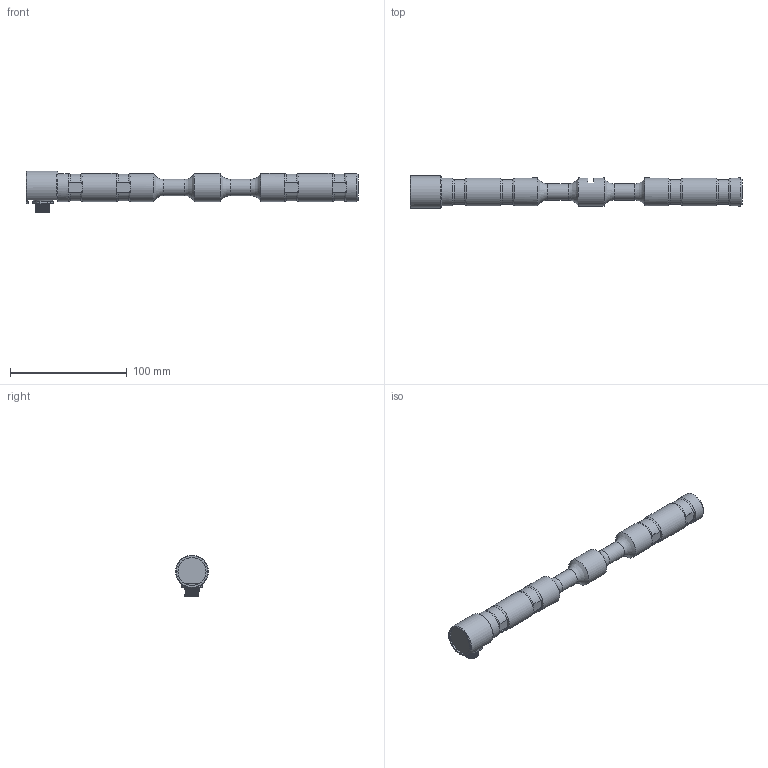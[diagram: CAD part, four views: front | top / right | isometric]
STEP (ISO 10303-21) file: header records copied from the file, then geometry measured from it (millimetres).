
FILE_DESCRIPTION(/* description */ ('Alibre Inc.'),/* implementation_level */ '2;1');
FILE_NAME(/* name */ 'export0',/* time_stamp */ '2017-02-15T13:26:52+01:00',/* author */ (''),/* organization */ (''),/* preprocessor_version */ 'ST-DEVELOPER v14',/* originating_system */ 'Alibre',/* authorisation */ '');
FILE_SCHEMA (('CONFIG_CONTROL_DESIGN'));
Length unit declared in the file: centimetre
Products named in the file (6): ID_1; ID_2; ID_3; ID_4
Bounding box: 284.4 x 28 x 35.7 mm (x, y, z)
Volume: 98537.8 mm3; surface area: 31886 mm2
Topology: 8 solids, 9 shells, 230 faces, 532 edges, 325 vertices
Faces by surface type: plane 92, cylinder 86, bspline 23, torus 21, cone 8
Full cylindrical faces by diameter (mm): 0.5 x8, 8 x3, 10 x3, 11.5 x1, 13 x1, 14 x2, 14.376 x1, 24 x8, 28 x1
Entity records: 18633 total; most frequent: CARTESIAN_POINT 13759, ORIENTED_EDGE 964, DIRECTION 662, EDGE_CURVE 477, VERTEX_POINT 312, AXIS2_PLACEMENT_3D 293, FACE_BOUND 284, EDGE_LOOP 282
